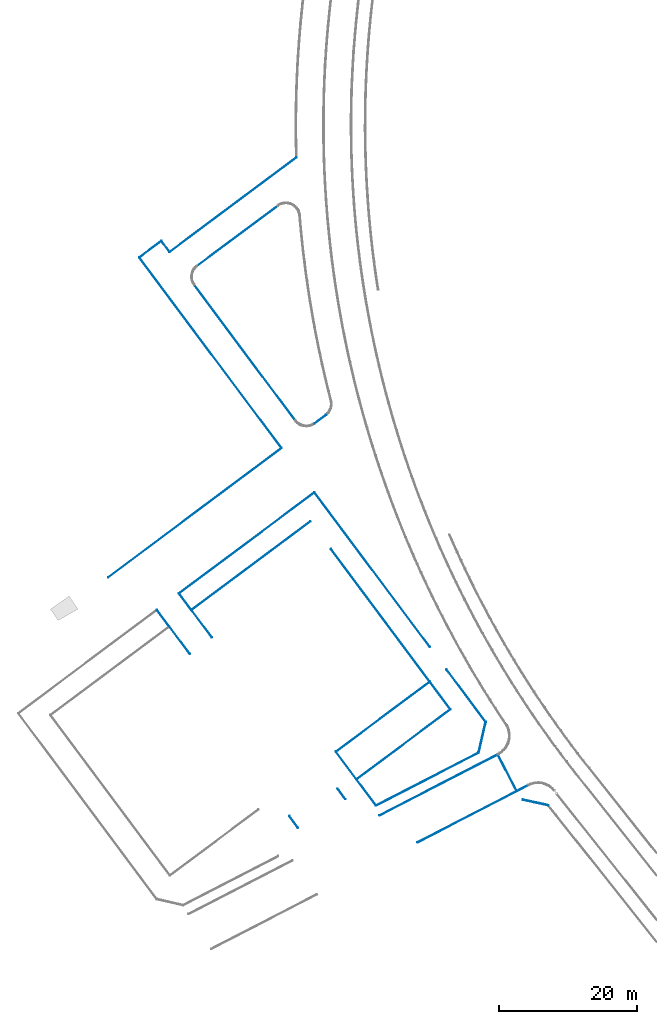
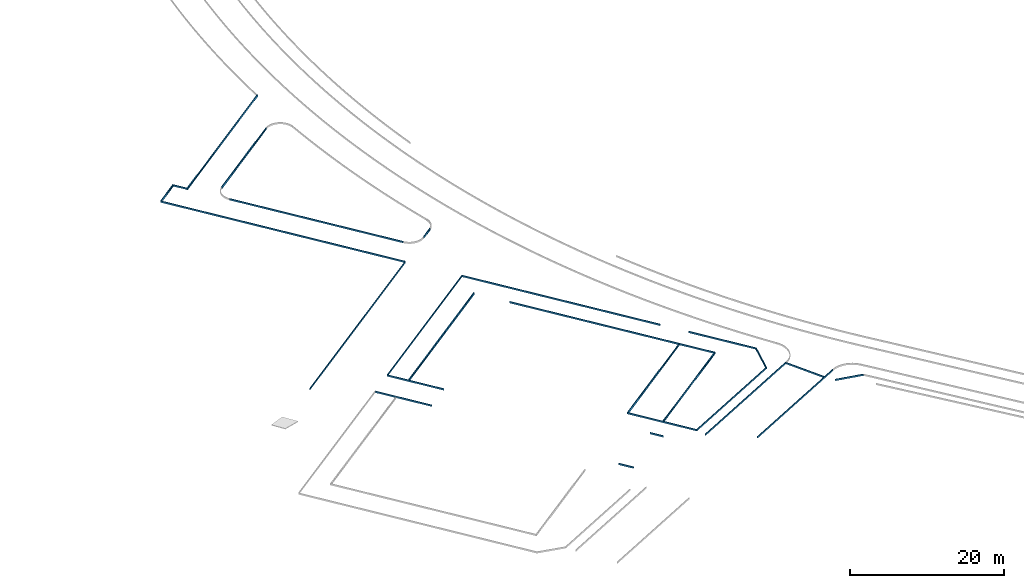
# One storey, part 2 of 24: 26 beams.
"""IFC2X3 building model written with IfcOpenShell, lengths in millimetres."""

import ifcopenshell
import ifcopenshell.guid

model = None  # the IFC model being written
_history = None  # IfcOwnerHistory: only IFC2X3 demands one
_inside = {}  # id of a spatial element -> (the spatial element, [elements in it])
_under = {}  # id of a project, library or spatial element -> (it, [spatial elements below it])
_declared = {}  # id of a project -> (the project, [libraries it declares])
_typed = {}  # id of a type object -> (the type object, [elements of that type])
_made_of = {}  # id of a material, layer set ... -> (it, [elements and type objects made of it])


def new_model(schema):
    """Start an empty IFC model of exactly this schema.

    Asked for "IFC4X3", IfcOpenShell would pick the latest addendum, in which some entities
    have other attributes; the version numbers below select the first issue.
    IFC2X3 requires an IfcOwnerHistory on every rooted entity: one is made here for all.
    """
    global model, _history
    if schema == "IFC4X3":
        model = ifcopenshell.file(schema_version=(4, 3, 0, 0))
    else:
        model = ifcopenshell.file(schema=schema)
    _inside.clear()
    _under.clear()
    _declared.clear()
    _typed.clear()
    _made_of.clear()
    _history = None
    if model.schema == "IFC2X3":
        org = make("IfcOrganization", Name="unknown")
        user = make(
            "IfcPersonAndOrganization",
            ThePerson=make("IfcPerson", FamilyName="unknown"),
            TheOrganization=org,
        )
        app = make(
            "IfcApplication",
            ApplicationDeveloper=org,
            Version="unknown",
            ApplicationFullName="unknown",
            ApplicationIdentifier="unknown",
        )
        _history = make(
            "IfcOwnerHistory",
            OwningUser=user,
            OwningApplication=app,
            ChangeAction="ADDED",
            CreationDate=0,
        )
    return model


def make(cls, **values):
    """One entity of the class cls with the attributes given. An attribute that is None is left unset."""
    return model.create_entity(
        cls, **{name: value for name, value in values.items() if value is not None}
    )


def entity(cls, *values):
    """Any entity or typed value of the class cls, its attributes in the order of the schema. None: left unset."""
    e = model.create_entity(cls)
    for i, value in enumerate(values):
        if value is not None:
            e[i] = value
    return e


def rooted(cls, **values):
    """An entity with a GlobalId (a new one), such as an element, a storey or a relation."""
    return make(cls, GlobalId=ifcopenshell.guid.new(), OwnerHistory=_history, **values)


def si_unit(unit_type, name, prefix=None):
    """IfcSIUnit, for example si_unit("LENGTHUNIT", "METRE", prefix="MILLI")."""
    return make("IfcSIUnit", UnitType=unit_type, Prefix=prefix, Name=name)


def converted_unit(unit_type, name, factor, base, dimensions=None, offset=None):
    """IfcConversionBasedUnit, such as the inch: factor (a typed value) times the base unit."""
    return make(
        "IfcConversionBasedUnit"
        if offset is None
        else "IfcConversionBasedUnitWithOffset",
        ConversionOffset=offset,
        Dimensions=None
        if dimensions is None
        else entity("IfcDimensionalExponents", *dimensions),
        UnitType=unit_type,
        Name=name,
        ConversionFactor=make(
            "IfcMeasureWithUnit", ValueComponent=factor, UnitComponent=base
        ),
    )


def derived_unit(unit_type, elements):
    """IfcDerivedUnit: a product of units, each with its exponent."""
    return make(
        "IfcDerivedUnit",
        Elements=[
            make("IfcDerivedUnitElement", Unit=unit, Exponent=power)
            for unit, power in elements
        ],
        UnitType=unit_type,
    )


def assignment(units):
    """IfcUnitAssignment: the units of a project."""
    return None if units is None else make("IfcUnitAssignment", Units=units)


def point(xyz):
    """IfcCartesianPoint."""
    return None if xyz is None else make("IfcCartesianPoint", Coordinates=xyz)


def direction(xyz):
    """IfcDirection."""
    return None if xyz is None else make("IfcDirection", DirectionRatios=xyz)


def frame(location, z_axis=None, x_axis=None):
    """IfcAxis2Placement3D, a coordinate frame: its origin and axes. An axis left out is left unset."""
    return make(
        "IfcAxis2Placement3D",
        Location=point(location),
        Axis=direction(z_axis),
        RefDirection=direction(x_axis),
    )


def frame_2d(location, x_axis=None):
    """IfcAxis2Placement2D, a coordinate frame in the plane: its origin and x axis."""
    return make(
        "IfcAxis2Placement2D", Location=point(location), RefDirection=direction(x_axis)
    )


def origin():
    """The frame at (0, 0, 0) with its axes left unset."""
    return frame((0.0, 0.0, 0.0))


def origin_2d_with_axis():
    """The frame at (0, 0) in the plane with the x axis (1, 0) written out."""
    return frame_2d((0.0, 0.0), x_axis=(1.0, 0.0))


def place(relative_to, where):
    """IfcLocalPlacement: puts the frame where relative to a parent placement (None: the world)."""
    return make(
        "IfcLocalPlacement", PlacementRelTo=relative_to, RelativePlacement=where
    )


def context(
    kind, dimensions, precision=None, world=None, true_north=None, identifier=None
):
    """IfcGeometricRepresentationContext, for example the 3D "Model" context."""
    return make(
        "IfcGeometricRepresentationContext",
        ContextIdentifier=identifier,
        ContextType=kind,
        CoordinateSpaceDimension=dimensions,
        Precision=precision,
        WorldCoordinateSystem=world,
        TrueNorth=true_north,
    )


def subcontext(parent, identifier, kind, view, scale=None):
    """IfcGeometricRepresentationSubContext, for example "Body" below "Model"."""
    return make(
        "IfcGeometricRepresentationSubContext",
        ContextIdentifier=identifier,
        ContextType=kind,
        ParentContext=parent,
        TargetScale=scale,
        TargetView=view,
    )


def project(units=None, contexts=None):
    """IfcProject with its units and contexts."""
    return rooted(
        "IfcProject",
        Name="project",
        RepresentationContexts=contexts,
        UnitsInContext=assignment(units),
    )


def spatial(cls, under=None, at=None, **own):
    """A site, building, storey or space (cls), placed at a placement, below another one or the project."""
    s = rooted(cls, ObjectPlacement=at, **own)
    if under is not None:
        _under.setdefault(under.id(), (under, []))[1].append(s)
    return s


def profile(cls, at=None, kind="AREA", **sizes):
    """A parametric profile (cls). Its sizes go by their IFC names, for example OverallWidth=200.0."""
    return make(cls, ProfileType=kind, Position=at, **sizes)


def rectangle(**sizes):
    """IfcRectangleProfileDef."""
    return profile("IfcRectangleProfileDef", **sizes)


def extrude(swept, where, along, depth):
    """IfcExtrudedAreaSolid: the profile swept, set in the frame where, extruded along a direction by depth."""
    return make(
        "IfcExtrudedAreaSolid",
        SweptArea=swept,
        Position=where,
        ExtrudedDirection=direction(along),
        Depth=depth,
    )


def shape(context_of_items, identifier, shape_type, items):
    """IfcShapeRepresentation: the items that make up one representation, for example the "Body"."""
    return make(
        "IfcShapeRepresentation",
        ContextOfItems=context_of_items,
        RepresentationIdentifier=identifier,
        RepresentationType=shape_type,
        Items=items,
    )


def material(Name=None, Category=None):
    """IfcMaterial."""
    return make("IfcMaterial", Name=Name, Category=Category)


def made_of(thing, what):
    """Note that an element or type object is made of a material, layer set ...; save() writes the relation."""
    if what is not None:
        _made_of.setdefault(what.id(), (what, []))[1].append(thing)
    return thing


def type_object(cls, material=None, **own):
    """A type object (cls), such as IfcWallType, which elements share."""
    return made_of(rooted(cls, **own), material)


def element(
    cls,
    number,
    at=None,
    inside=None,
    cuts=None,
    type_object=None,
    material=None,
    context=None,
    identifier="Body",
    shape_type=None,
    held_by="IfcProductDefinitionShape",
    body=None,
    shapes=None,
    **own,
):
    """One element of the class cls, such as IfcWall. Its Tag is "e" and its number.

    at: its placement. inside: the storey or other place that contains it. cuts: it is an
    opening in that element (IfcRelVoidsElement). A single representation is given by context,
    identifier, shape_type and body (its items); several are given by shapes. held_by: the class
    of the entity that holds the representations. save() writes the other relations.
    """
    e = rooted(cls, Tag="e%d" % number, ObjectPlacement=at, **own)
    if body is not None:
        shapes = [shape(context, identifier, shape_type, body)]
    if shapes is not None:
        e.Representation = make(held_by, Representations=shapes)
    if inside is not None:
        _inside.setdefault(inside.id(), (inside, []))[1].append(e)
    if cuts is not None:
        rooted(
            "IfcRelVoidsElement", RelatingBuildingElement=cuts, RelatedOpeningElement=e
        )
    if type_object is not None:
        _typed.setdefault(type_object.id(), (type_object, []))[1].append(e)
    return made_of(e, material)


def aggregate(whole, parts):
    """IfcRelAggregates: a whole, such as a stair, and the parts it consists of."""
    return rooted("IfcRelAggregates", RelatingObject=whole, RelatedObjects=parts)


def save(model, path):
    """Write the relations noted so far, then the file.

    IfcRelAggregates (storeys below a building ...), IfcRelContainedInSpatialStructure (elements
    in a storey), IfcRelDefinesByType, IfcRelAssociatesMaterial and IfcRelDeclares: one each for
    every whole, place, type object, material and project.
    """
    for whole, parts in _under.values():
        aggregate(whole, parts)
    for where, things in _inside.values():
        rooted(
            "IfcRelContainedInSpatialStructure",
            RelatedElements=things,
            RelatingStructure=where,
        )
    for kind, things in _typed.values():
        rooted("IfcRelDefinesByType", RelatedObjects=things, RelatingType=kind)
    for what, things in _made_of.values():
        rooted("IfcRelAssociatesMaterial", RelatedObjects=things, RelatingMaterial=what)
    for by, libraries in _declared.values():
        rooted("IfcRelDeclares", RelatingContext=by, RelatedDefinitions=libraries)
    model.write(path)


model = new_model("IFC2X3")

# Units and contexts
model_context = context("Model", 3, precision=0.01, world=origin(), true_north=direction((6.123031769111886e-17, 1.0)))
body_context = subcontext(model_context, "Body", "Model", "MODEL_VIEW")
ifc_project = project(units=[si_unit("LENGTHUNIT", "METRE", prefix="MILLI"), si_unit("AREAUNIT", "SQUARE_METRE"), si_unit("VOLUMEUNIT", "CUBIC_METRE"), converted_unit("PLANEANGLEUNIT", "DEGREE", entity("IfcRatioMeasure", 0.017453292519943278), si_unit("PLANEANGLEUNIT", "RADIAN"), dimensions=[0, 0, 0, 0, 0, 0, 0]), si_unit("MASSUNIT", "GRAM", prefix="KILO"), derived_unit("MASSDENSITYUNIT", [(si_unit("MASSUNIT", "GRAM", prefix="KILO"), 1), (si_unit("LENGTHUNIT", "METRE"), -3)]), derived_unit("MOMENTOFINERTIAUNIT", [(si_unit("LENGTHUNIT", "METRE"), 4)]), si_unit("TIMEUNIT", "SECOND"), si_unit("FREQUENCYUNIT", "HERTZ"), si_unit("THERMODYNAMICTEMPERATUREUNIT", "DEGREE_CELSIUS"), derived_unit("THERMALTRANSMITTANCEUNIT", [(si_unit("MASSUNIT", "GRAM", prefix="KILO"), 1), (si_unit("THERMODYNAMICTEMPERATUREUNIT", "KELVIN"), -1), (si_unit("TIMEUNIT", "SECOND"), -3)]), derived_unit("THERMALCONDUCTANCEUNIT", [(si_unit("MASSUNIT", "GRAM", prefix="KILO"), 1), (si_unit("LENGTHUNIT", "METRE"), 1), (si_unit("THERMODYNAMICTEMPERATUREUNIT", "KELVIN"), -1), (si_unit("TIMEUNIT", "SECOND"), -3)]), derived_unit("VOLUMETRICFLOWRATEUNIT", [(si_unit("LENGTHUNIT", "METRE"), 3), (si_unit("TIMEUNIT", "SECOND"), -1)]), derived_unit("MASSFLOWRATEUNIT", [(si_unit("MASSUNIT", "GRAM", prefix="KILO"), 1), (si_unit("TIMEUNIT", "SECOND"), -1)]), derived_unit("ROTATIONALFREQUENCYUNIT", [(si_unit("TIMEUNIT", "SECOND"), -1)]), si_unit("ELECTRICCURRENTUNIT", "AMPERE"), si_unit("ELECTRICVOLTAGEUNIT", "VOLT"), si_unit("POWERUNIT", "WATT"), converted_unit("FORCEUNIT", "KIP", entity("IfcRatioMeasure", 2.088543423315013e-05), si_unit("FORCEUNIT", "NEWTON"), dimensions=[1, 1, -2, 0, 0, 0, 0]), si_unit("ILLUMINANCEUNIT", "LUX"), si_unit("LUMINOUSFLUXUNIT", "LUMEN"), si_unit("LUMINOUSINTENSITYUNIT", "CANDELA"), derived_unit("USERDEFINED", [(si_unit("MASSUNIT", "GRAM", prefix="KILO"), -1), (si_unit("LENGTHUNIT", "METRE"), -2), (si_unit("TIMEUNIT", "SECOND"), 3), (si_unit("LUMINOUSFLUXUNIT", "LUMEN"), 1)]), derived_unit("USERDEFINED", [(si_unit("MASSUNIT", "GRAM", prefix="KILO"), 1), (si_unit("LENGTHUNIT", "METRE"), 3), (si_unit("TIMEUNIT", "SECOND"), -3), (si_unit("ELECTRICCURRENTUNIT", "AMPERE"), -2)]), derived_unit("USERDEFINED", [(si_unit("LENGTHUNIT", "METRE"), 2), (si_unit("TIMEUNIT", "SECOND"), -2)]), derived_unit("SOUNDPOWERUNIT", [(si_unit("MASSUNIT", "GRAM", prefix="KILO"), 1), (si_unit("LENGTHUNIT", "METRE"), 2), (si_unit("TIMEUNIT", "SECOND"), -3)]), derived_unit("SOUNDPRESSUREUNIT", [(si_unit("MASSUNIT", "GRAM", prefix="KILO"), 1), (si_unit("LENGTHUNIT", "METRE"), -1), (si_unit("TIMEUNIT", "SECOND"), -2)]), derived_unit("LINEARVELOCITYUNIT", [(si_unit("LENGTHUNIT", "METRE"), 1), (si_unit("TIMEUNIT", "SECOND"), -1)]), si_unit("PRESSUREUNIT", "PASCAL"), derived_unit("USERDEFINED", [(si_unit("LENGTHUNIT", "METRE"), -2), (si_unit("MASSUNIT", "GRAM", prefix="KILO"), 1), (si_unit("TIMEUNIT", "SECOND"), -2)]), derived_unit("LINEARFORCEUNIT", [(si_unit("MASSUNIT", "GRAM", prefix="KILO"), 1), (si_unit("LENGTHUNIT", "METRE"), 1), (si_unit("TIMEUNIT", "SECOND"), -2), (si_unit("LENGTHUNIT", "METRE"), -1)]), derived_unit("PLANARFORCEUNIT", [(si_unit("MASSUNIT", "GRAM", prefix="KILO"), 1), (si_unit("LENGTHUNIT", "METRE"), 1), (si_unit("TIMEUNIT", "SECOND"), -2), (si_unit("LENGTHUNIT", "METRE"), -2)]), derived_unit("SPECIFICHEATCAPACITYUNIT", [(si_unit("LENGTHUNIT", "METRE"), 2), (si_unit("TIMEUNIT", "SECOND"), -2), (si_unit("THERMODYNAMICTEMPERATUREUNIT", "KELVIN"), -1)]), derived_unit("VAPORPERMEABILITYUNIT", [(si_unit("TIMEUNIT", "SECOND"), 1), (si_unit("LENGTHUNIT", "METRE"), -1)]), derived_unit("DYNAMICVISCOSITYUNIT", [(si_unit("MASSUNIT", "GRAM", prefix="KILO"), 1), (si_unit("LENGTHUNIT", "METRE"), -1), (si_unit("TIMEUNIT", "SECOND"), -1)]), derived_unit("THERMALEXPANSIONCOEFFICIENTUNIT", [(si_unit("THERMODYNAMICTEMPERATUREUNIT", "KELVIN"), -1)])], contexts=[model_context])

# Site, building, storey
site_placement = place(None, frame((0.0, 0.0, 0.0), z_axis=(0.0, 0.0, 1.0), x_axis=(0.8191520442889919, 0.5735764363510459, 0.0)))
site = spatial("IfcSite", under=ifc_project, at=site_placement, Name="Default", CompositionType="ELEMENT")
building_placement = place(site_placement, origin())
building = spatial("IfcBuilding", under=site, at=building_placement, CompositionType="ELEMENT")
storey_placement = place(building_placement, frame((0.0, 0.0, -1150.0)))
storey = spatial("IfcBuildingStorey", under=building, at=storey_placement, Name="6.EG KH -1.15", CompositionType="ELEMENT", Elevation=-1150.0000000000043)

# Beams
ifc_material = material(Name="Paveta_bordur")
beam_type_1 = type_object("IfcBeamType", Name="Beam-139 238196:Beam-139 238196", PredefinedType="NOTDEFINED")
beam_1_placement = place(storey_placement, origin())
element("IfcBeam", 1, at=beam_1_placement, inside=storey, type_object=beam_type_1, material=ifc_material, Name="Beam-139", ObjectType="Beam-139 238196:Beam-139 238196", context=body_context, shape_type="SweptSolid", body=[
    extrude(rectangle(XDim=250.00000000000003, YDim=100.0000000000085, at=frame_2d((9.176659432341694e-12, 0.0), x_axis=(0.0, 1.0))), frame((-165695.8617177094, 84569.05724974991, 1035.0), z_axis=(0.9995535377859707, 0.02987850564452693, 0.0), x_axis=(0.02987850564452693, -0.9995535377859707, 0.0)), (0.0, 0.0, 1.0), 22939.97791311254),
])
beam_type_2 = type_object("IfcBeamType", Name="Beam-139 238194:Beam-139 238194", PredefinedType="NOTDEFINED")
beam_2_placement = place(storey_placement, origin())
element("IfcBeam", 2, at=beam_2_placement, inside=storey, type_object=beam_type_2, material=ifc_material, Name="Beam-139", ObjectType="Beam-139 238194:Beam-139 238194", context=body_context, shape_type="SweptSolid", body=[
    extrude(rectangle(XDim=250.00000000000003, YDim=100.00000000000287, at=frame_2d((-4.330757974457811e-12, 0.0), x_axis=(0.0, 1.0))), frame((-162725.6973933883, 52143.325061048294, 1045.0), z_axis=(0.9995535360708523, 0.029878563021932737, 0.0), x_axis=(0.029878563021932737, -0.9995535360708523, 0.0)), (0.0, 0.0, 1.0), 2021.2625270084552),
])
beam_type_3 = type_object("IfcBeamType", Name="Beam-137 238188:Beam-137 238188", PredefinedType="NOTDEFINED")
beam_3_placement = place(storey_placement, origin())
element("IfcBeam", 3, at=beam_3_placement, inside=storey, type_object=beam_type_3, material=ifc_material, Name="Beam-137", ObjectType="Beam-137 238188:Beam-137 238188", context=body_context, shape_type="SweptSolid", body=[
    extrude(rectangle(XDim=250.00000000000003, YDim=99.99999999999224, at=frame_2d((0.0, 1.744737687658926e-11), x_axis=(1.0, 0.0))), frame((-164784.56158379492, 54082.67474691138, 1045.0), z_axis=(-0.029878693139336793, 0.9995535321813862, 0.0), x_axis=(0.0, 0.0, -1.0)), (0.0, 0.0, 1.0), 24499.999396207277),
])
beam_type_4 = type_object("IfcBeamType", Name="Beam-143 238161:Beam-143 238161", PredefinedType="NOTDEFINED")
beam_4_placement = place(storey_placement, origin())
element("IfcBeam", 4, at=beam_4_placement, inside=storey, type_object=beam_type_4, material=ifc_material, Name="Beam-143", ObjectType="Beam-143 238161:Beam-143 238161", context=body_context, shape_type="SweptSolid", body=[
    extrude(rectangle(XDim=250.00000000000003, YDim=100.0000000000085, at=frame_2d((0.0, 9.176659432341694e-12), x_axis=(1.0, 0.0))), frame((-163577.23949459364, 80630.60014368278, 1045.0), z_axis=(0.9995535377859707, 0.02987850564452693, 0.0), x_axis=(0.0, 0.0, -1.0)), (0.0, 0.0, 1.0), 14569.346522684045),
])
beam_type_5 = type_object("IfcBeamType", Name="Beam-139 238160:Beam-139 238160", PredefinedType="NOTDEFINED")
beam_5_placement = place(storey_placement, origin())
element("IfcBeam", 5, at=beam_5_placement, inside=storey, type_object=beam_type_5, material=ifc_material, Name="Beam-139", ObjectType="Beam-139 238160:Beam-139 238160", context=body_context, shape_type="SweptSolid", body=[
    extrude(rectangle(XDim=250.00000000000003, YDim=99.99999999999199, at=frame_2d((0.0, 1.7319479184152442e-11), x_axis=(1.0, 0.0))), frame((-165695.86144650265, 84569.05745389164, 1035.0), z_axis=(-0.029878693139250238, 0.9995535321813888, 0.0), x_axis=(0.0, 0.0, -1.0)), (0.0, 0.0, 1.0), 1999.9998040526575),
])
beam_type_6 = type_object("IfcBeamType", Name="Beam-138 237779:Beam-138 237779", PredefinedType="NOTDEFINED")
beam_6_placement = place(storey_placement, origin())
element("IfcBeam", 6, at=beam_6_placement, inside=storey, type_object=beam_type_6, material=ifc_material, Name="Beam-138", ObjectType="Beam-138 237779:Beam-138 237779", context=body_context, shape_type="SweptSolid", body=[
    extrude(rectangle(XDim=250.00000000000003, YDim=100.00000000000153, at=frame_2d((5.186961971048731e-13, 0.0), x_axis=(0.0, 1.0))), frame((-200058.03464372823, 51027.38811460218, 1035.0), z_axis=(0.999553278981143, 0.029887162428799, 0.0), x_axis=(0.029887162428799, -0.999553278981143, 0.0)), (0.0, 0.0, 1.0), 31349.012819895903),
])
beam_type_7 = type_object("IfcBeamType", Name="Beam-143 237778:Beam-143 237778", PredefinedType="NOTDEFINED")
beam_7_placement = place(storey_placement, origin())
element("IfcBeam", 7, at=beam_7_placement, inside=storey, type_object=beam_type_7, material=ifc_material, Name="Beam-143", ObjectType="Beam-143 237778:Beam-143 237778", context=body_context, shape_type="SweptSolid", body=[
    extrude(rectangle(XDim=250.00000000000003, YDim=99.99999999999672, at=frame_2d((0.0, -4.845901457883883e-12), x_axis=(1.0, 0.0))), frame((-192973.04996116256, 43235.60228255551, 1035.0), z_axis=(0.9995535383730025, 0.029878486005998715, 0.0), x_axis=(0.0, 0.0, -1.0)), (0.0, 0.0, 1.0), 24499.999474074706),
])
beam_type_8 = type_object("IfcBeamType", Name="Beam-139 237771:Beam-139 237771", PredefinedType="NOTDEFINED")
beam_8_placement = place(storey_placement, origin())
element("IfcBeam", 8, at=beam_8_placement, inside=storey, type_object=beam_type_8, material=ifc_material, Name="Beam-139", ObjectType="Beam-139 237771:Beam-139 237771", context=body_context, shape_type="SweptSolid", body=[
    extrude(rectangle(XDim=250.00000000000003, YDim=99.99999999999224, at=frame_2d((1.744737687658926e-11, 0.0), x_axis=(0.0, 1.0))), frame((-168723.02608677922, 51964.32115272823, 1035.0), z_axis=(-0.029878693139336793, 0.9995535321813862, 0.0), x_axis=(0.9995535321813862, 0.029878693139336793, 0.0)), (0.0, 0.0, 1.0), 34499.73216666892),
])
beam_type_9 = type_object("IfcBeamType", Name="Beam-144 237761:Beam-144 237761", PredefinedType="NOTDEFINED")
beam_9_placement = place(storey_placement, origin())
element("IfcBeam", 9, at=beam_9_placement, inside=storey, type_object=beam_type_9, material=ifc_material, Name="Beam-144", ObjectType="Beam-144 237761:Beam-144 237761", context=body_context, shape_type="SweptSolid", body=[
    extrude(rectangle(XDim=250.00000000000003, YDim=99.99999999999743, at=frame_2d((0.0, 1.7323031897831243e-11), x_axis=(1.0, 0.0))), frame((-192734.02187666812, 35239.17398144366, 1035.0), z_axis=(-0.029878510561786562, 0.9995535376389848, 0.0), x_axis=(0.0, 0.0, -1.0)), (0.0, 0.0, 1.0), 7999.999999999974),
])
beam_type_10 = type_object("IfcBeamType", Name="Beam-145 237754:Beam-145 237754", PredefinedType="NOTDEFINED")
beam_10_placement = place(storey_placement, origin())
element("IfcBeam", 10, at=beam_10_placement, inside=storey, type_object=beam_type_10, material=ifc_material, Name="Beam-145", ObjectType="Beam-145 237754:Beam-145 237754", context=body_context, shape_type="SweptSolid", body=[
    extrude(rectangle(XDim=250.00000000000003, YDim=100.00000000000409, at=frame_2d((-4.330757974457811e-12, 0.0), x_axis=(0.0, 1.0))), frame((-192883.41442387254, 40236.94148214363, 1035.0), z_axis=(0.9995535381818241, 0.029878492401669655, 0.0), x_axis=(0.029878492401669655, -0.9995535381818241, 0.0)), (0.0, 0.0, 1.0), 21500.000071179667),
])
beam_type_11 = type_object("IfcBeamType", Name="Beam-147 237719:Beam-147 237719", PredefinedType="NOTDEFINED")
beam_11_placement = place(storey_placement, origin())
element("IfcBeam", 11, at=beam_11_placement, inside=storey, type_object=beam_type_11, material=ifc_material, Name="Beam-147", ObjectType="Beam-147 237719:Beam-147 237719", context=body_context, shape_type="SweptSolid", body=[
    extrude(rectangle(XDim=250.00000000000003, YDim=99.99999999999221, at=frame_2d((0.0, -1.7337242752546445e-11), x_axis=(1.0, 0.0))), frame((-170377.13772499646, 6894.507664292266, 1035.0), z_axis=(-0.029878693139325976, 0.9995535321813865, 0.0), x_axis=(0.0, 0.0, -1.0)), (0.0, 0.0, 1.0), 29000.001311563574),
])
beam_type_12 = type_object("IfcBeamType", Name="Beam-149 237709:Beam-149 237709", PredefinedType="NOTDEFINED")
beam_12_placement = place(storey_placement, origin())
element("IfcBeam", 12, at=beam_12_placement, inside=storey, type_object=beam_type_12, material=ifc_material, Name="Beam-149", ObjectType="Beam-149 237709:Beam-149 237709", context=body_context, shape_type="SweptSolid", body=[
    extrude(rectangle(XDim=250.00000000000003, YDim=99.99999999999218, at=frame_2d((1.7351453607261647e-11, 0.0), x_axis=(0.0, 1.0))), frame((-167647.41210779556, 15981.02012234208, 1035.0), z_axis=(-0.029878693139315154, 0.9995535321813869, 0.0), x_axis=(0.9995535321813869, 0.029878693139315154, 0.0)), (0.0, 0.0, 1.0), 27999.105751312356),
])
beam_type_13 = type_object("IfcBeamType", Name="Beam-155 237688:Beam-155 237688", PredefinedType="NOTDEFINED")
beam_13_placement = place(storey_placement, origin())
element("IfcBeam", 13, at=beam_13_placement, inside=storey, type_object=beam_type_13, material=ifc_material, Name="Beam-155", ObjectType="Beam-155 237688:Beam-155 237688", context=body_context, shape_type="SweptSolid", body=[
    extrude(rectangle(XDim=250.00000000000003, YDim=99.99999999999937, at=frame_2d((1.7333690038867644e-11, 0.0), x_axis=(0.0, 1.0))), frame((-198347.21381564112, 5474.830538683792, 1035.0), z_axis=(-0.029878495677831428, 0.9995535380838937, 0.0), x_axis=(0.9995535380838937, 0.029878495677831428, 0.0)), (0.0, 0.0, 1.0), 2131.043580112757),
])
beam_type_14 = type_object("IfcBeamType", Name="Beam-159 237659:Beam-159 237659", PredefinedType="NOTDEFINED")
beam_14_placement = place(storey_placement, origin())
element("IfcBeam", 14, at=beam_14_placement, inside=storey, type_object=beam_type_14, material=ifc_material, Name="Beam-159", ObjectType="Beam-159 237659:Beam-159 237659", context=body_context, shape_type="SweptSolid", body=[
    extrude(rectangle(XDim=250.00000000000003, YDim=99.99999999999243, at=frame_2d((1.738698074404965e-11, 0.0), x_axis=(0.0, 1.0))), frame((-196732.23598187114, 35119.65996023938, 1035.0), z_axis=(-0.02987851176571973, 0.999553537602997, 0.0), x_axis=(0.999553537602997, 0.02987851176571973, 0.0)), (0.0, 0.0, 1.0), 8000.0002538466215),
])
beam_type_15 = type_object("IfcBeamType", Name="Beam-167 237657:Beam-167 237657", PredefinedType="NOTDEFINED")
beam_15_placement = place(storey_placement, origin())
element("IfcBeam", 15, at=beam_15_placement, inside=storey, type_object=beam_type_15, material=ifc_material, Name="Beam-167", ObjectType="Beam-167 237657:Beam-167 237657", context=body_context, shape_type="SweptSolid", body=[
    extrude(rectangle(XDim=250.00000000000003, YDim=100.00000000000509, at=frame_2d((2.4868995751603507e-14, 0.0), x_axis=(0.0, 1.0))), frame((-170646.4050328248, -597.5979127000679, 1035.0), z_axis=(0.7433430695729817, 0.6689103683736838, 0.0), x_axis=(0.6689103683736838, -0.7433430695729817, 0.0)), (0.0, 0.0, 1.0), 4577.999351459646),
])
beam_type_16 = type_object("IfcBeamType", Name="Beam-160 237647:Beam-160 237647", PredefinedType="NOTDEFINED")
beam_16_placement = place(storey_placement, origin())
element("IfcBeam", 16, at=beam_16_placement, inside=storey, type_object=beam_type_16, material=ifc_material, Name="Beam-160", ObjectType="Beam-160 237647:Beam-160 237647", context=body_context, shape_type="SweptSolid", body=[
    extrude(rectangle(XDim=250.00000000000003, YDim=99.99999999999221, at=frame_2d((1.7337242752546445e-11, 0.0), x_axis=(0.0, 1.0))), frame((-167243.38094240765, 2464.6733198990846, 1035.0), z_axis=(-0.029878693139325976, 0.9995535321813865, 0.0), x_axis=(0.9995535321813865, 0.029878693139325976, 0.0)), (0.0, 0.0, 1.0), 9521.489860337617),
])
beam_type_17 = type_object("IfcBeamType", Name="Beam-166 237637:Beam-166 237637", PredefinedType="NOTDEFINED")
beam_17_placement = place(storey_placement, origin())
element("IfcBeam", 17, at=beam_17_placement, inside=storey, type_object=beam_type_17, material=ifc_material, Name="Beam-166", ObjectType="Beam-166 237637:Beam-166 237637", context=body_context, shape_type="SweptSolid", body=[
    extrude(rectangle(XDim=250.00000000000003, YDim=100.00000000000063, at=frame_2d((4.46576109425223e-12, 0.0), x_axis=(0.0, 1.0))), frame((-187227.6644426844, 1639.8013086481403, 1035.0), z_axis=(0.9910186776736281, -0.13372352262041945, 0.0), x_axis=(-0.13372352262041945, -0.9910186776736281, 0.0)), (0.0, 0.0, 1.0), 16731.53067990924),
])
beam_type_18 = type_object("IfcBeamType", Name="Beam-164 237636:Beam-164 237636", PredefinedType="NOTDEFINED")
beam_18_placement = place(storey_placement, origin())
element("IfcBeam", 18, at=beam_18_placement, inside=storey, type_object=beam_type_18, material=ifc_material, Name="Beam-164", ObjectType="Beam-164 237636:Beam-164 237636", context=body_context, shape_type="SweptSolid", body=[
    extrude(rectangle(XDim=250.00000000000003, YDim=99.99999999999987, at=origin_2d_with_axis()), frame((-187518.9493494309, 11384.331479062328, 1035.0), z_axis=(0.99955352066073, 0.029879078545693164, 0.0), x_axis=(0.0, 0.0, -1.0)), (0.0, 0.0, 1.0), 17000.00861049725),
])
beam_type_19 = type_object("IfcBeamType", Name="Beam-165 237631:Beam-165 237631", PredefinedType="NOTDEFINED")
beam_19_placement = place(storey_placement, origin())
element("IfcBeam", 19, at=beam_19_placement, inside=storey, type_object=beam_type_19, material=ifc_material, Name="Beam-165", ObjectType="Beam-165 237631:Beam-165 237631", context=body_context, shape_type="SweptSolid", body=[
    extrude(rectangle(XDim=250.00000000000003, YDim=99.99999999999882, at=frame_2d((0.0, 1.731592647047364e-11), x_axis=(1.0, 0.0))), frame((-190327.86407976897, 4946.84953983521, 1035.0), z_axis=(-0.029875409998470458, 0.9995536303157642, 0.0), x_axis=(0.0, 0.0, -1.0)), (0.0, 0.0, 1.0), 1905.5239585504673),
])
beam_type_20 = type_object("IfcBeamType", Name="Beam-148 237620:Beam-148 237620", PredefinedType="NOTDEFINED")
beam_20_placement = place(storey_placement, origin())
element("IfcBeam", 20, at=beam_20_placement, inside=storey, type_object=beam_type_20, material=ifc_material, Name="Beam-148", ObjectType="Beam-148 237620:Beam-148 237620", context=body_context, shape_type="SweptSolid", body=[
    extrude(rectangle(XDim=250.00000000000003, YDim=99.99999999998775, at=frame_2d((0.0, 1.7333690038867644e-11), x_axis=(1.0, 0.0))), frame((-187227.66444268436, 1639.8013086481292, 1035.0), z_axis=(-0.029878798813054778, 0.9995535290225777, 0.0), x_axis=(0.0, 0.0, -1.0)), (0.0, 0.0, 1.0), 9748.882763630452),
])
beam_type_21 = type_object("IfcBeamType", Name="Beam-166 237613:Beam-166 237613", PredefinedType="NOTDEFINED")
beam_21_placement = place(storey_placement, origin())
element("IfcBeam", 21, at=beam_21_placement, inside=storey, type_object=beam_type_21, material=ifc_material, Name="Beam-166", ObjectType="Beam-166 237613:Beam-166 237613", context=body_context, shape_type="SweptSolid", body=[
    extrude(rectangle(XDim=250.00000000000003, YDim=100.00000000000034, at=origin_2d_with_axis()), frame((-185389.57985769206, -6176.192386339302, 1035.0), z_axis=(0.9910186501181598, -0.13372372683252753, 0.0), x_axis=(0.0, 0.0, -1.0)), (0.0, 0.0, 1.0), 18146.814273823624),
])
beam_type_22 = type_object("IfcBeamType", Name="Beam-168 237608:Beam-168 237608", PredefinedType="NOTDEFINED")
beam_22_placement = place(storey_placement, origin())
element("IfcBeam", 22, at=beam_22_placement, inside=storey, type_object=beam_type_22, material=ifc_material, Name="Beam-168", ObjectType="Beam-168 237608:Beam-168 237608", context=body_context, shape_type="SweptSolid", body=[
    extrude(rectangle(XDim=250.00000000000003, YDim=99.99999999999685, at=frame_2d((7.354117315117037e-13, 0.0), x_axis=(0.0, 1.0))), frame((-166740.4777129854, -12648.966837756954, 1035.0), z_axis=(-0.6804773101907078, 0.7327691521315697, 0.0), x_axis=(0.7327691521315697, 0.6804773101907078, 0.0)), (0.0, 0.0, 1.0), 3811.1516043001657),
])
beam_type_23 = type_object("IfcBeamType", Name="Beam-166 237587:Beam-166 237587", PredefinedType="NOTDEFINED")
beam_23_placement = place(storey_placement, origin())
element("IfcBeam", 23, at=beam_23_placement, inside=storey, type_object=beam_type_23, material=ifc_material, Name="Beam-166", ObjectType="Beam-166 237587:Beam-166 237587", context=body_context, shape_type="SweptSolid", body=[
    extrude(rectangle(XDim=250.00000000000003, YDim=100.0000000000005, at=frame_2d((7.105427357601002e-15, 0.0), x_axis=(0.0, 1.0))), frame((-187674.26297040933, 186.4692444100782, 1035.0), z_axis=(0.9910186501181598, -0.1337237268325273, 0.0), x_axis=(-0.1337237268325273, -0.9910186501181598, 0.0)), (0.0, 0.0, 1.0), 19337.235392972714),
])
beam_type_24 = type_object("IfcBeamType", Name="Beam-147 237577:Beam-147 237577", PredefinedType="NOTDEFINED")
beam_24_placement = place(storey_placement, origin())
element("IfcBeam", 24, at=beam_24_placement, inside=storey, type_object=beam_type_24, material=ifc_material, Name="Beam-147", ObjectType="Beam-147 237577:Beam-147 237577", context=body_context, shape_type="SweptSolid", body=[
    extrude(rectangle(XDim=250.00000000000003, YDim=99.99999999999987, at=origin_2d_with_axis()), frame((-187369.55393467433, 6386.563138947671, 1035.0), z_axis=(0.99955352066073, 0.029879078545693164, 0.0), x_axis=(0.0, 0.0, -1.0)), (0.0, 0.0, 1.0), 17000.00636128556),
])
beam_type_25 = type_object("IfcBeamType", Name="Beam-139 237459:Beam-139 237459", PredefinedType="NOTDEFINED")
beam_25_placement = place(storey_placement, origin())
element("IfcBeam", 25, at=beam_25_placement, inside=storey, type_object=beam_type_25, material=ifc_material, Name="Beam-139", ObjectType="Beam-139 237459:Beam-139 237459", context=body_context, shape_type="SweptSolid", body=[
    extrude(rectangle(XDim=250.00000000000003, YDim=100.0000000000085, at=frame_2d((9.176659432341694e-12, 0.0), x_axis=(0.0, 1.0))), frame((-169753.83299757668, 86448.65029923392, 1035.0), z_axis=(0.9995535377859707, 0.02987850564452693, 0.0), x_axis=(0.02987850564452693, -0.9995535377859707, 0.0)), (0.0, 0.0, 1.0), 4000.0000195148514),
])
beam_type_26 = type_object("IfcBeamType", Name="Beam-166 236872:Beam-166 236872", PredefinedType="NOTDEFINED")
beam_26_placement = place(storey_placement, origin())
element("IfcBeam", 26, at=beam_26_placement, inside=storey, type_object=beam_type_26, material=ifc_material, Name="Beam-166", ObjectType="Beam-166 236872:Beam-166 236872", context=body_context, shape_type="SweptSolid", body=[
    extrude(rectangle(XDim=250.0, YDim=99.99999999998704, at=frame_2d((1.7539747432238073e-11, 1.4210854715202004e-14), x_axis=(0.0, 1.0))), frame((-169313.04441524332, -8345.489839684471, 985.0), z_axis=(0.13372372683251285, 0.9910186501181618, 0.0), x_axis=(0.9910186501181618, -0.13372372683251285, 0.0)), (0.0, 0.0, 1.0), 6000.000000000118),
])

save(model, "model.ifc")
